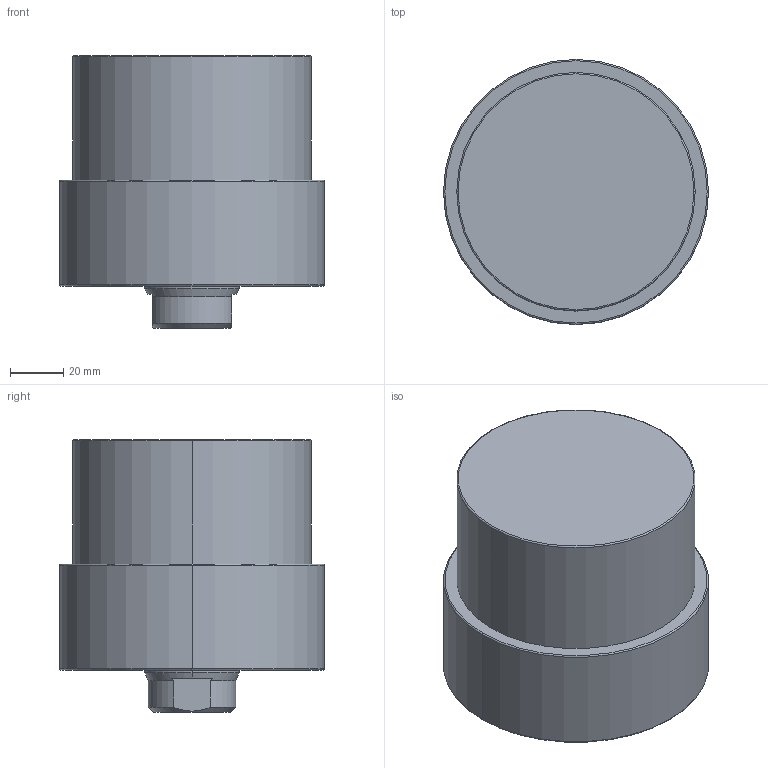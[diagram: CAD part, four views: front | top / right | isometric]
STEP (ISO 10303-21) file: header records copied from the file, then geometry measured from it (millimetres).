
FILE_DESCRIPTION (( 'STEP AP203' ), '1' );
FILE_NAME ('CLLU-090CA-025.STEP', '2020-01-11T00:28:55', ( '' ), ( '' ), 'SwSTEP 2.0', 'SolidWorks 2015', '' );
FILE_SCHEMA (( 'CONFIG_CONTROL_DESIGN' ));
Length unit declared in the file: millimetre
Products named in the file (1): CLLU-090CA-025
Bounding box: 100 x 100 x 103 mm (x, y, z)
Volume: 608709.9 mm3; surface area: 48138.4 mm2
Topology: 1 solids, 1 shells, 62 faces, 140 edges, 79 vertices
Faces by surface type: cone 24, cylinder 22, plane 10, torus 6
Entity records: 1767 total; most frequent: DIRECTION 320, CARTESIAN_POINT 316, ORIENTED_EDGE 260, AXIS2_PLACEMENT_3D 135, EDGE_CURVE 130, VERTEX_POINT 79, CIRCLE 72, EDGE_LOOP 71
